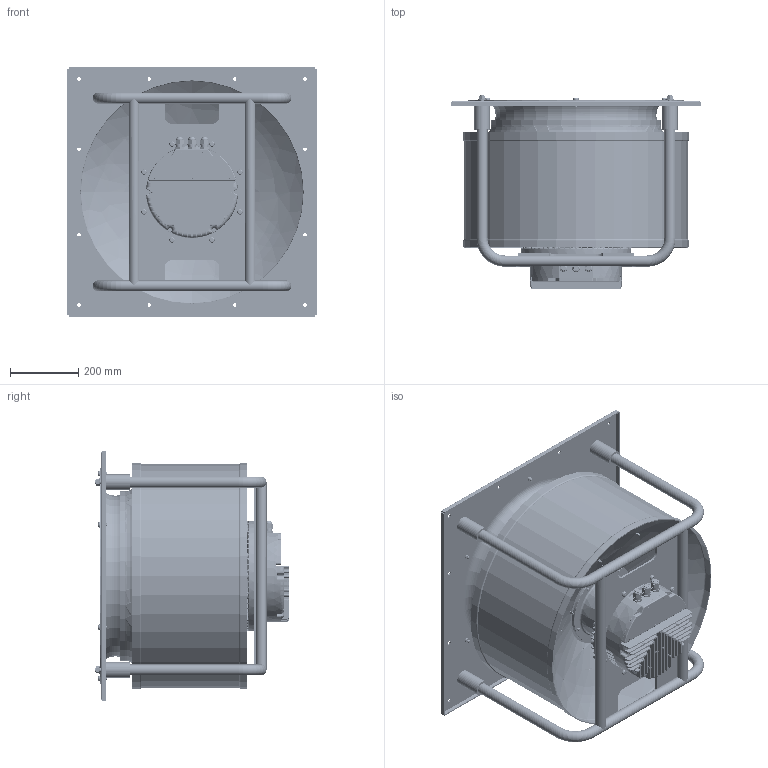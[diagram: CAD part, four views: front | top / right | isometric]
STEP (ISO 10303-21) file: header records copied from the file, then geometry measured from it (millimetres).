
FILE_DESCRIPTION((''),'2;1');
FILE_NAME('GTMB63NBV51R_3D_CUSTOMER_ASM','2025-11-25T17:43:05',('JUNLIN.CHEN'),(''),'CREO PARAMETRIC BY PTC INC, 2022424','CREO PARAMETRIC BY PTC INC, 2022424','');
FILE_SCHEMA(('CONFIG_CONTROL_DESIGN'));
Length unit declared in the file: inch
Products named in the file (27): 0-PILLOW-5___1; 2_2____0001_1; 3___0001_1; 2_1____0001_1; 0-OD150_SHAFT___ASM_1_ASM; 0-CASE___1; 0-3475388300___1; 0-CAP___1; 0-COVER-ADC12___1; 0-MOTOR-OD150H-APFC___ASM_1_ASM; 0-3479012600--CABLE-GLAND__1; 0-WASHER___1; 0-3105605500--T45--M8__1; BOTTOM_1___2_1; BOTTOM_1___2_2; BOTTOM_1___2_3; BOTTOM_1___2_ASM; TUBE-1_1___1; TUBE-2_1___1; TOP_1___1; 0-FRAME-GTMB63_ASM_2_ASM; 0-3105652900--T50--M10--L20__1; 0-NOZZLE__1; 0-FASTENINGS_LTD-M12_1; IMPELLER_CUSTOMER_3D_1; 0-GTMB63NBV51R_3D_20251125_ASM__ASM; GTMB63NBV51R_3D_CUSTOMER_ASM
Assembly tree (58 placements, depth 5):
  GTMB63NBV51R_3D_CUSTOMER_ASM
    0-GTMB63NBV51R_3D_20251125_ASM__ASM
      0-MOTOR-OD150H-APFC___ASM_1_ASM
        0-PILLOW-5___1
        0-OD150_SHAFT___ASM_1_ASM
          2_2____0001_1
          3___0001_1
          2_1____0001_1
        0-CASE___1
        0-3475388300___1
        0-CAP___1
        0-COVER-ADC12___1
      0-3479012600--CABLE-GLAND__1  x3
      0-WASHER___1  x11
      0-3105605500--T45--M8__1  x11
      0-FRAME-GTMB63_ASM_2_ASM
        BOTTOM_1___2_ASM
          BOTTOM_1___2_1
          BOTTOM_1___2_2
          BOTTOM_1___2_3
        TUBE-1_1___1
        TUBE-2_1___1
        TOP_1___1
      0-3105652900--T50--M10--L20__1  x8
      0-NOZZLE__1
      0-FASTENINGS_LTD-M12_1  x4
      IMPELLER_CUSTOMER_3D_1
Bounding box: 730 x 567.66 x 730 mm (x, y, z)
Volume: 86713750.8 mm3; surface area: 4983694.7 mm2
Topology: 53 solids, 85 shells, 8862 faces, 22954 edges, 13985 vertices
Faces by surface type: cylinder 2488, plane 1949, torus 1462, bspline 1405, cone 803, extrusion 467, sphere 288
Entity records: 369330 total; most frequent: CARTESIAN_POINT 189084, ORIENTED_EDGE 39532, DIRECTION 35390, EDGE_CURVE 19766, AXIS2_PLACEMENT_3D 14828, VERTEX_POINT 12176, CIRCLE 8627, EDGE_LOOP 8282
